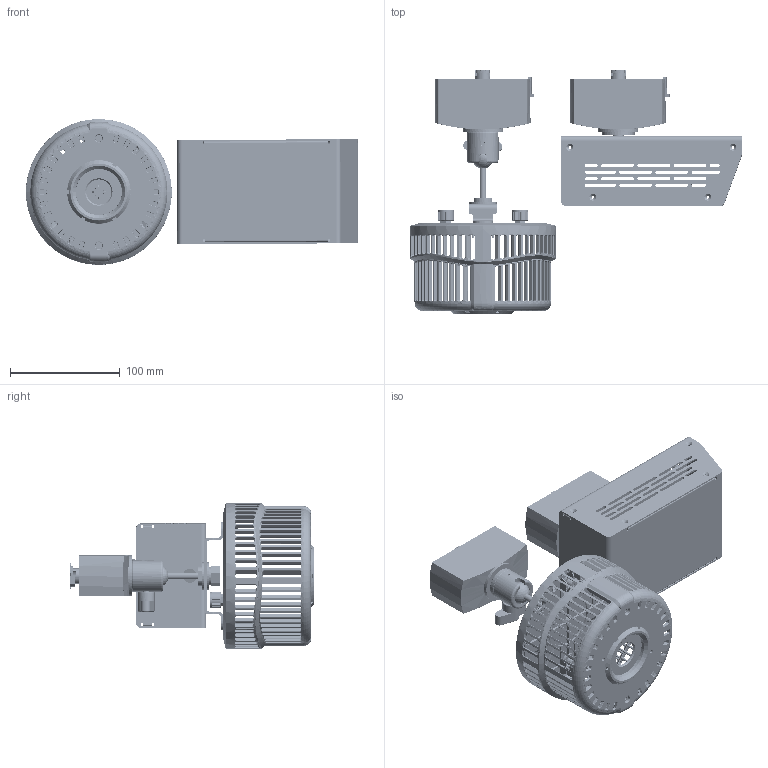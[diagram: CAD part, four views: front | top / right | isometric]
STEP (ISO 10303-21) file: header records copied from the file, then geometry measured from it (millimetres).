
FILE_DESCRIPTION (( 'STEP AP214' ), '1' );
FILE_NAME ('W500X-TJ-PS.STEP', '2024-01-31T17:46:11', ( '' ), ( '' ), 'SwSTEP 2.0', 'SolidWorks 2022', '' );
FILE_SCHEMA (( 'AUTOMOTIVE_DESIGN' ));
Length unit declared in the file: millimetre
Products named in the file (27): 5020897-2010216520_ _Helical Spring Washer Customized___; 5022693-XXX_A1_Bracket, 98.85x25x17.5, T=2.5mm___; 5022444_A1_Retaining M4 for JUNO, L=20mm___; 5020757-002_A2_VR Washer, Kessil A360 Aquarium Light___; 5120530-XXX_A1_Assembly BOM, W500 Reflector Type_No Reflector; 5022424-XXX_A2_250W Power Box Cover (TG&TEX-PS&CLP&TJ TYPE), 165x92x62.5(H)mm___; 5120519-XXX_A3_Assembly BOM, Kessil W500 Power Box_TON(US)-PS; 5020757-001_A1_VR Nut, Kessil A360 Aquarium Light___; 5022405-XXX_A1_Wing Knob Screws, M6xL8.0mm_-001; 5120540-XXX_A1_Rear Panel, OD=133, T=13.65mm, W-Series_5120531-001 W500; 5047587-XXX_A1_Pendant Adapter for Juno Trac-Master (T Series)_Finish; 5022430-XXX_A1_Ball Joint Part C (For TDE), L=18.9mm___; 5021416_A1_Hex Nut, M10xP1.5, T8 SUS___; W500X-TJ-PS; 5020893-2010525020_ _Flat Washer, M10, ID10.5 OD25.0, T2 SUS 304___; 5022427-XXX_A4_250W Power Box FRAME (TG&TEX&CLP TYPE), 165x95x64mm___; 5120529-XXX_A1_Assembly BOM, W500 Light Engine_Finish; 5010177-XXX_A2_Assembly BOM, Kessil W500_N-[TG]; 5022708-XXX_A2_Ball Joint Axis, L=65.8mm___; 5021926-XXX_A2_KNOB, 18T, OD=14.9, ID=6, L=10MM_C1; 5047587-XXX_A1_Pendant Adapter for Juno Trac-Master (T Series)_Finish_2; 5022189_A1_Plate, OD=48, ID=23, T=2.0mm___; 62282-5014005_ _Standard Types of Metric Set Screws, M4xL5, Black___; 5022770-XXX_A1_RETAINING COLLAR M10P1.0 FOR ONETRACK POWER BOX OD30x29.8mm___; 5022431-XXX_A1_Ball Joint Part A, L=23.7mm___; 5120539-XXX_A1_Housing, OD=133, ID=121, T=78.1mm, For Reflector, Without Logo___; 5120522-XXX_A4_Assembly BOM, W360&W500 Light Mounting Type_TG
Assembly tree (30 placements, depth 4):
  W500X-TJ-PS
    5010177-XXX_A2_Assembly BOM, Kessil W500_N-[TG]
      5120529-XXX_A1_Assembly BOM, W500 Light Engine_Finish
        5120540-XXX_A1_Rear Panel, OD=133, T=13.65mm, W-Series_5120531-001 W500
        5020757-002_A2_VR Washer, Kessil A360 Aquarium Light___  x2
        5020757-001_A1_VR Nut, Kessil A360 Aquarium Light___  x2
        5021926-XXX_A2_KNOB, 18T, OD=14.9, ID=6, L=10MM_C1  x2
      5120530-XXX_A1_Assembly BOM, W500 Reflector Type_No Reflector
        5120539-XXX_A1_Housing, OD=133, ID=121, T=78.1mm, For Reflector, Without Logo___
        5022189_A1_Plate, OD=48, ID=23, T=2.0mm___
      5120522-XXX_A4_Assembly BOM, W360&W500 Light Mounting Type_TG
        5022431-XXX_A1_Ball Joint Part A, L=23.7mm___
        5022430-XXX_A1_Ball Joint Part C (For TDE), L=18.9mm___
        5022708-XXX_A2_Ball Joint Axis, L=65.8mm___
        62282-5014005_ _Standard Types of Metric Set Screws, M4xL5, Black___
        5022405-XXX_A1_Wing Knob Screws, M6xL8.0mm_-001
        5022693-XXX_A1_Bracket, 98.85x25x17.5, T=2.5mm___
        5047587-XXX_A1_Pendant Adapter for Juno Trac-Master (T Series)_Finish
        5022444_A1_Retaining M4 for JUNO, L=20mm___
        5020893-2010525020_ _Flat Washer, M10, ID10.5 OD25.0, T2 SUS 304___  x2
        5020897-2010216520_ _Helical Spring Washer Customized___
        5021416_A1_Hex Nut, M10xP1.5, T8 SUS___
    5120519-XXX_A3_Assembly BOM, Kessil W500 Power Box_TON(US)-PS
      5022427-XXX_A4_250W Power Box FRAME (TG&TEX&CLP TYPE), 165x95x64mm___
      5047587-XXX_A1_Pendant Adapter for Juno Trac-Master (T Series)_Finish_2
      5022770-XXX_A1_RETAINING COLLAR M10P1.0 FOR ONETRACK POWER BOX OD30x29.8mm___
      5022424-XXX_A2_250W Power Box Cover (TG&TEX-PS&CLP&TJ TYPE), 165x92x62.5(H)mm___
Bounding box: 303.04 x 223.56 x 133 mm (x, y, z)
Volume: 338826.7 mm3; surface area: 361480.6 mm2
Topology: 32 solids, 32 shells, 5859 faces, 16049 edges, 10175 vertices
Faces by surface type: plane 2188, cylinder 2039, bspline 849, cone 442, torus 323, sphere 18
Entity records: 243949 total; most frequent: CARTESIAN_POINT 107315, ORIENTED_EDGE 29806, DIRECTION 24984, EDGE_CURVE 14903, VERTEX_POINT 9427, AXIS2_PLACEMENT_3D 9207, VECTOR 6570, LINE 6570
